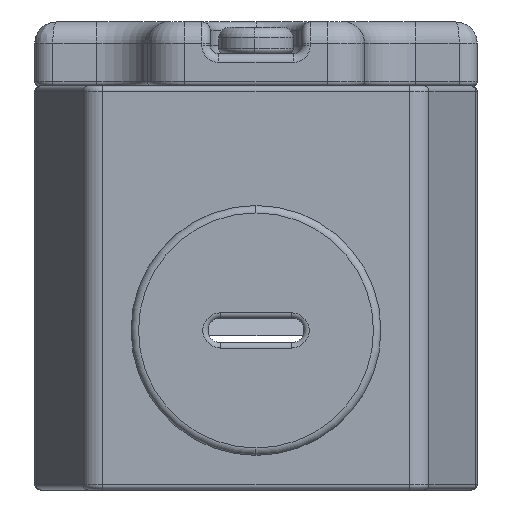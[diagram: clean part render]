
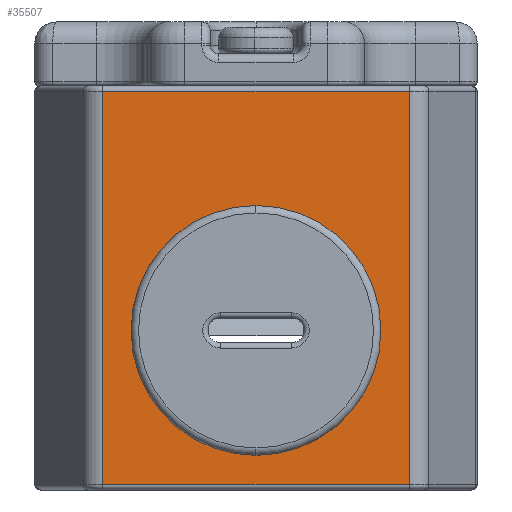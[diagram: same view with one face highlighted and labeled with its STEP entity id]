
A CAD part, front view. The second image highlights one B-rep face of the part: STEP entity #35507.
In plain terms, the highlighted planar face has unit normal (0, -1, 0).
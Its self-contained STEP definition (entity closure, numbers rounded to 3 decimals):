
#4959 = CARTESIAN_POINT ( 'NONE',  ( 0., -82., 15. ) ) ;
#4960 = CARTESIAN_POINT ( 'NONE',  ( 14.401, -82., 38. ) ) ;
#4961 = DIRECTION ( 'NONE',  ( 0., 0., 1. ) ) ;
#4963 = DIRECTION ( 'NONE',  ( 0., 1., 0. ) ) ;
#4964 = DIRECTION ( 'NONE',  ( 0., 0., 1. ) ) ;
#4965 = CARTESIAN_POINT ( 'NONE',  ( 0., -82., 15. ) ) ;
#4967 = DIRECTION ( 'NONE',  ( 0., 1., 0. ) ) ;
#4968 = DIRECTION ( 'NONE',  ( 0., 0., 1. ) ) ;
#4974 = CARTESIAN_POINT ( 'NONE',  ( -14.401, -82., 37.5 ) ) ;
#4975 = DIRECTION ( 'NONE',  ( -1., 0., 0. ) ) ;
#6437 = AXIS2_PLACEMENT_3D ( 'NONE', #34066, #34069, #34070 ) ;
#7059 = AXIS2_PLACEMENT_3D ( 'NONE', #4965, #4967, #4968 ) ;
#7066 = AXIS2_PLACEMENT_3D ( 'NONE', #4959, #4963, #4964 ) ;
#10103 = CARTESIAN_POINT ( 'NONE',  ( -14.401, -82., 0.5 ) ) ;
#11031 = CARTESIAN_POINT ( 'NONE',  ( 14.401, -82., 0.5 ) ) ;
#11483 = ORIENTED_EDGE ( 'NONE', *, *, #37287, .T. ) ;
#11629 = ORIENTED_EDGE ( 'NONE', *, *, #37291, .T. ) ;
#12008 = ORIENTED_EDGE ( 'NONE', *, *, #20185, .T. ) ;
#12038 = ORIENTED_EDGE ( 'NONE', *, *, #37288, .T. ) ;
#12381 = ORIENTED_EDGE ( 'NONE', *, *, #37286, .T. ) ;
#12382 = ORIENTED_EDGE ( 'NONE', *, *, #20809, .T. ) ;
#13352 = CARTESIAN_POINT ( 'NONE',  ( -14.401, -82., 38. ) ) ;
#13359 = DIRECTION ( 'NONE',  ( 0., 0., -1. ) ) ;
#13486 = CARTESIAN_POINT ( 'NONE',  ( 14.401, -82., 37.5 ) ) ;
#13496 = CARTESIAN_POINT ( 'NONE',  ( 0., -82., 4.2 ) ) ;
#14665 = LINE ( 'NONE', #13352, #14667 ) ;
#14667 = VECTOR ( 'NONE', #13359, 1000. ) ;
#19953 = LINE ( 'NONE', #4974, #19961 ) ;
#19954 = LINE ( 'NONE', #4960, #19958 ) ;
#19958 = VECTOR ( 'NONE', #4961, 1000. ) ;
#19960 = CIRCLE ( 'NONE', #7066, 10.8 ) ;
#19961 = VECTOR ( 'NONE', #4975, 1000. ) ;
#19962 = CIRCLE ( 'NONE', #7059, 10.8 ) ;
#20185 = EDGE_CURVE ( 'NONE', #22212, #29072, #14665, .T. ) ;
#20809 = EDGE_CURVE ( 'NONE', #29072, #30287, #31902, .T. ) ;
#21798 = VERTEX_POINT ( 'NONE', #13496 ) ;
#21854 = VERTEX_POINT ( 'NONE', #13486 ) ;
#22212 = VERTEX_POINT ( 'NONE', #33391 ) ;
#22230 = VERTEX_POINT ( 'NONE', #33364 ) ;
#23371 = FACE_BOUND ( 'NONE', #25833, .T. ) ;
#23380 = FACE_OUTER_BOUND ( 'NONE', #25828, .T. ) ;
#25828 = EDGE_LOOP ( 'NONE', ( #12008, #12382, #12381, #11629 ) ) ;
#25833 = EDGE_LOOP ( 'NONE', ( #12038, #11483 ) ) ;
#29072 = VERTEX_POINT ( 'NONE', #10103 ) ;
#30287 = VERTEX_POINT ( 'NONE', #11031 ) ;
#31879 = VECTOR ( 'NONE', #35581, 1000. ) ;
#31902 = LINE ( 'NONE', #35582, #31879 ) ;
#33364 = CARTESIAN_POINT ( 'NONE',  ( 0., -82., 25.8 ) ) ;
#33391 = CARTESIAN_POINT ( 'NONE',  ( -14.401, -82., 37.5 ) ) ;
#34066 = CARTESIAN_POINT ( 'NONE',  ( -20.8, -82., 38. ) ) ;
#34067 = PLANE ( 'NONE',  #6437 ) ;
#34069 = DIRECTION ( 'NONE',  ( 0., 1., 0. ) ) ;
#34070 = DIRECTION ( 'NONE',  ( 0., 0., 1. ) ) ;
#35507 = ADVANCED_FACE ( 'NONE', ( #23371, #23380 ), #34067, .F. ) ;
#35581 = DIRECTION ( 'NONE',  ( 1., 0., 0. ) ) ;
#35582 = CARTESIAN_POINT ( 'NONE',  ( -20.8, -82., 0.5 ) ) ;
#37286 = EDGE_CURVE ( 'NONE', #30287, #21854, #19954, .T. ) ;
#37287 = EDGE_CURVE ( 'NONE', #21798, #22230, #19960, .T. ) ;
#37288 = EDGE_CURVE ( 'NONE', #22230, #21798, #19962, .T. ) ;
#37291 = EDGE_CURVE ( 'NONE', #21854, #22212, #19953, .T. ) ;
